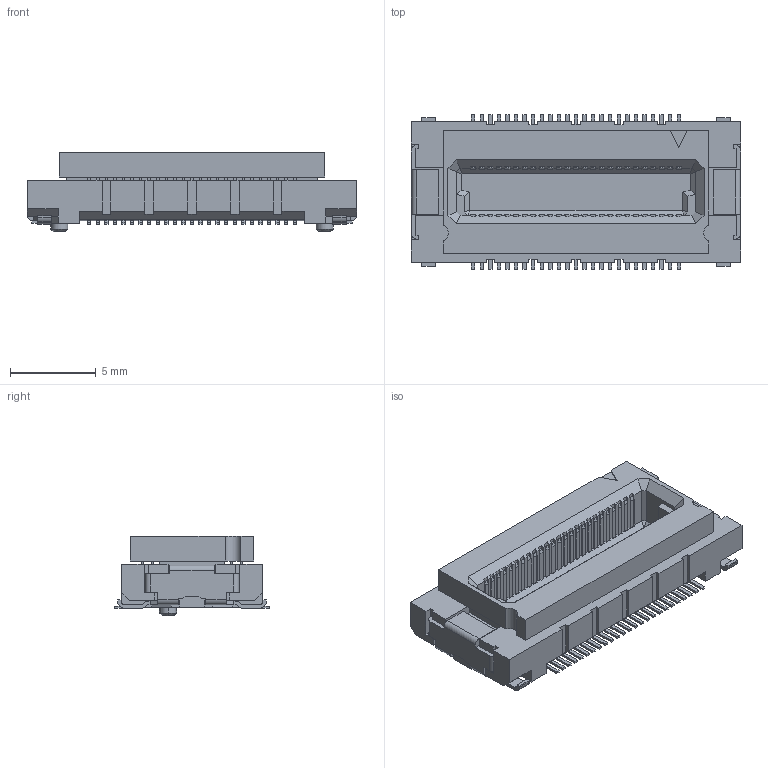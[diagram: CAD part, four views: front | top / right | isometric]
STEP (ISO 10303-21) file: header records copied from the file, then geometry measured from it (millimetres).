
FILE_DESCRIPTION(('Creo Elements/Direct Modeling STEP Export'),'2;1');
FILE_NAME('P3E293_DY03-050SB-BT.stp','2022-02-28T18:48:25',(''),(''),'Creo Elements/Direct Modeling STEP processor for AP214 (Solid Model)','Creo Elements/Direct Modeling 20.4A 18-Oct-2021 (C) Parametric Technology GmbH','');
FILE_SCHEMA(('AUTOMOTIVE_DESIGN { 1 0 10303 214 1 1 1 1 }'));
Products named in the file (2): P3E293_DY03-050SB-BT
Assembly tree (1 placements, depth 2):
  P3E293_DY03-050SB-BT
    P3E293_DY03-050SB-BT
Bounding box: 19.2 x 9 x 4.65 mm (x, y, z)
Volume: 406 mm3; surface area: 911.9 mm2
Topology: 1 solids, 1 shells, 2281 faces, 6397 edges, 4222 vertices
Faces by surface type: plane 2028, cylinder 249, cone 4
Entity records: 71481 total; most frequent: ORIENTED_EDGE 12794, CARTESIAN_POINT 12631, DIRECTION 11125, EDGE_CURVE 6397, VECTOR 5693, LINE 5693, VERTEX_POINT 4222, AXIS2_PLACEMENT_3D 2716
